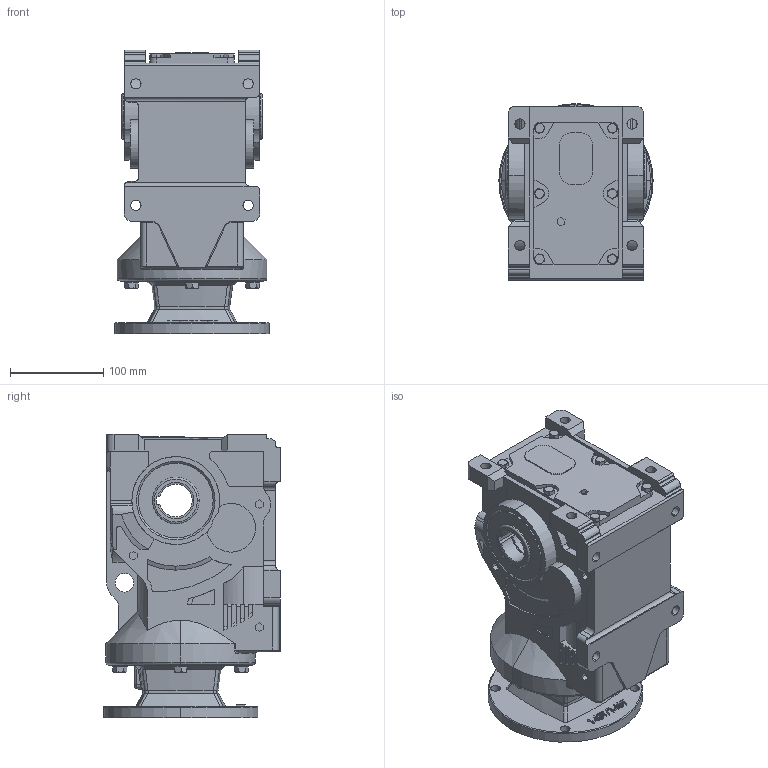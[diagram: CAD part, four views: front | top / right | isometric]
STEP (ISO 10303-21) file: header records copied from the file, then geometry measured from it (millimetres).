
FILE_DESCRIPTION (( 'STEP AP203' ), '1' );
FILE_NAME ('KHN47-143-5TC.STEP', '2022-04-07T06:59:00', ( 'user1' ), ( '' ), 'SwSTEP 2.0', 'SolidWorks 2012', '' );
FILE_SCHEMA (( 'CONFIG_CONTROL_DESIGN' ));
Products named in the file (1): KHN47-143-5TC
Bounding box: 165.1 x 189.35 x 303.5 mm (x, y, z)
Volume: 5211279.4 mm3; surface area: 320933.1 mm2
Topology: 1 solids, 1 shells, 960 faces, 2537 edges, 1648 vertices
Faces by surface type: plane 522, cylinder 262, bspline 83, cone 74, torus 19
Entity records: 36329 total; most frequent: CARTESIAN_POINT 12877, ORIENTED_EDGE 5070, DIRECTION 4532, EDGE_CURVE 2535, VERTEX_POINT 1648, LINE 1546, VECTOR 1546, AXIS2_PLACEMENT_3D 1493
